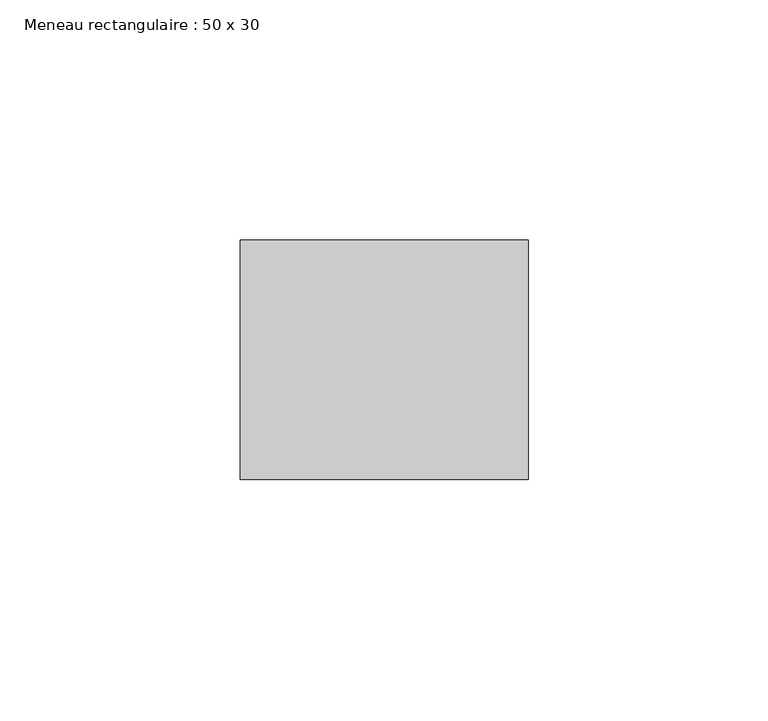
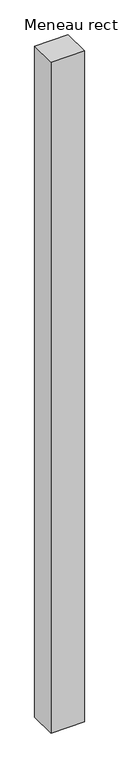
"""IFC4 building model written with IfcOpenShell, lengths in millimetres: member geometry, Meneau rectangulaire : 50 x 30."""

from ifc_helpers import new_model, si_unit, frame, origin, place, context, project, spatial, polyline, outline, extrude, source, transform, mapped, element, save


def meneau_rectangulaire_50_x_30_a6f54509(model_context):
    return source(origin(), model_context, "Body", "SweptSolid", [
        extrude(outline(polyline([(0.0, 0.0), (0.0, -50.0), (-60.0, -50.0), (-60.0, 0.0), (0.0, 0.0)])), frame((0.0, 0.0, -1269.2562307), z_axis=(0.0, 0.0, 1.0), x_axis=(1.0, 0.0, 0.0)), (0.0, 0.0, 1.0), 1269.2562307),
    ])


if __name__ == "__main__":
    model = new_model("IFC4")
    model_context = context("Model", 3, world=origin())
    ifc_project = project(units=[si_unit("LENGTHUNIT", "METRE", prefix="MILLI")], contexts=[model_context])
    site = spatial("IfcSite", under=ifc_project)
    building = spatial("IfcBuilding", under=site)
    placement = place(None, origin())
    meneau_rectangulaire_50_x_30_shape = meneau_rectangulaire_50_x_30_a6f54509(model_context)
    element("IfcMember", 1, ObjectType="Meneau rectangulaire : 50 x 30", at=placement, inside=building, context=model_context, shape_type="MappedRepresentation", body=[
        mapped(meneau_rectangulaire_50_x_30_shape, transform((0.0, 0.0, 0.0), x_axis=(1.0, 0.0, 0.0), y_axis=(0.0, 1.0, 0.0), z_axis=(0.0, 0.0, 1.0))),
    ])
    save(model, "model.ifc")
